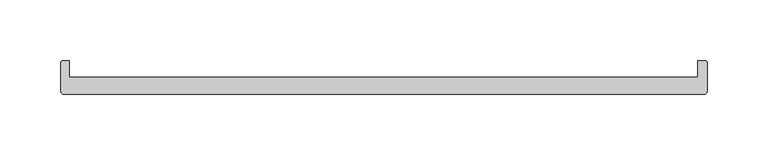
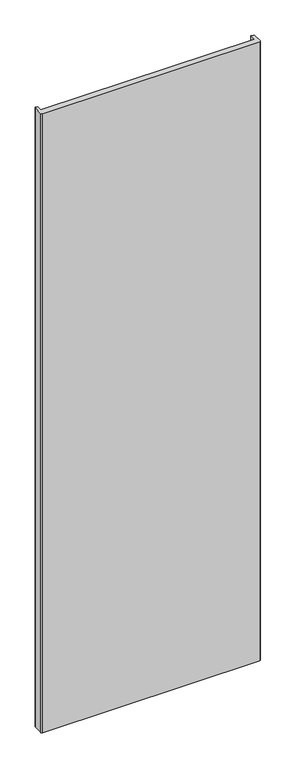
"""IFC4 building model written with IfcOpenShell, lengths in millimetres: plate geometry, Walls_Curtain-Walls_Danpal_NM : Walls_Curtain-Walls_Danpal_NM."""

import ifcopenshell
import ifcopenshell.guid

model = None  # the IFC model being written
_history = None  # IfcOwnerHistory: only IFC2X3 demands one
_inside = {}  # id of a spatial element -> (the spatial element, [elements in it])
_under = {}  # id of a project, library or spatial element -> (it, [spatial elements below it])
_declared = {}  # id of a project -> (the project, [libraries it declares])
_typed = {}  # id of a type object -> (the type object, [elements of that type])
_made_of = {}  # id of a material, layer set ... -> (it, [elements and type objects made of it])


def new_model(schema):
    """Start an empty IFC model of exactly this schema.

    Asked for "IFC4X3", IfcOpenShell would pick the latest addendum, in which some entities
    have other attributes; the version numbers below select the first issue.
    IFC2X3 requires an IfcOwnerHistory on every rooted entity: one is made here for all.
    """
    global model, _history
    if schema == "IFC4X3":
        model = ifcopenshell.file(schema_version=(4, 3, 0, 0))
    else:
        model = ifcopenshell.file(schema=schema)
    _inside.clear()
    _under.clear()
    _declared.clear()
    _typed.clear()
    _made_of.clear()
    _history = None
    if model.schema == "IFC2X3":
        org = make("IfcOrganization", Name="unknown")
        user = make(
            "IfcPersonAndOrganization",
            ThePerson=make("IfcPerson", FamilyName="unknown"),
            TheOrganization=org,
        )
        app = make(
            "IfcApplication",
            ApplicationDeveloper=org,
            Version="unknown",
            ApplicationFullName="unknown",
            ApplicationIdentifier="unknown",
        )
        _history = make(
            "IfcOwnerHistory",
            OwningUser=user,
            OwningApplication=app,
            ChangeAction="ADDED",
            CreationDate=0,
        )
    return model


def make(cls, **values):
    """One entity of the class cls with the attributes given. An attribute that is None is left unset."""
    return model.create_entity(
        cls, **{name: value for name, value in values.items() if value is not None}
    )


def rooted(cls, **values):
    """An entity with a GlobalId (a new one), such as an element, a storey or a relation."""
    return make(cls, GlobalId=ifcopenshell.guid.new(), OwnerHistory=_history, **values)


def si_unit(unit_type, name, prefix=None):
    """IfcSIUnit, for example si_unit("LENGTHUNIT", "METRE", prefix="MILLI")."""
    return make("IfcSIUnit", UnitType=unit_type, Prefix=prefix, Name=name)


def assignment(units):
    """IfcUnitAssignment: the units of a project."""
    return None if units is None else make("IfcUnitAssignment", Units=units)


def point(xyz):
    """IfcCartesianPoint."""
    return None if xyz is None else make("IfcCartesianPoint", Coordinates=xyz)


def direction(xyz):
    """IfcDirection."""
    return None if xyz is None else make("IfcDirection", DirectionRatios=xyz)


def frame(location, z_axis=None, x_axis=None):
    """IfcAxis2Placement3D, a coordinate frame: its origin and axes. An axis left out is left unset."""
    return make(
        "IfcAxis2Placement3D",
        Location=point(location),
        Axis=direction(z_axis),
        RefDirection=direction(x_axis),
    )


def frame_2d(location, x_axis=None):
    """IfcAxis2Placement2D, a coordinate frame in the plane: its origin and x axis."""
    return make(
        "IfcAxis2Placement2D", Location=point(location), RefDirection=direction(x_axis)
    )


def origin():
    """The frame at (0, 0, 0) with its axes left unset."""
    return frame((0.0, 0.0, 0.0))


def origin_with_axes():
    """The frame at (0, 0, 0) with the z axis (0, 0, 1) and the x axis (1, 0, 0) written out."""
    return frame((0.0, 0.0, 0.0), z_axis=(0.0, 0.0, 1.0), x_axis=(1.0, 0.0, 0.0))


def place(relative_to, where):
    """IfcLocalPlacement: puts the frame where relative to a parent placement (None: the world)."""
    return make(
        "IfcLocalPlacement", PlacementRelTo=relative_to, RelativePlacement=where
    )


def context(
    kind, dimensions, precision=None, world=None, true_north=None, identifier=None
):
    """IfcGeometricRepresentationContext, for example the 3D "Model" context."""
    return make(
        "IfcGeometricRepresentationContext",
        ContextIdentifier=identifier,
        ContextType=kind,
        CoordinateSpaceDimension=dimensions,
        Precision=precision,
        WorldCoordinateSystem=world,
        TrueNorth=true_north,
    )


def project(units=None, contexts=None):
    """IfcProject with its units and contexts."""
    return rooted(
        "IfcProject",
        Name="project",
        RepresentationContexts=contexts,
        UnitsInContext=assignment(units),
    )


def spatial(cls, under=None, at=None, **own):
    """A site, building, storey or space (cls), placed at a placement, below another one or the project."""
    s = rooted(cls, ObjectPlacement=at, **own)
    if under is not None:
        _under.setdefault(under.id(), (under, []))[1].append(s)
    return s


def polyline(points):
    """IfcPolyline through the points."""
    return make("IfcPolyline", Points=[point(p) for p in points])


def circle_curve(where, radius):
    """IfcCircle in the frame where."""
    return make("IfcCircle", Position=where, Radius=radius)


def trimmed(basis, trim1, trim2, sense, master):
    """IfcTrimmedCurve: the piece of a basis curve between two trims."""
    return make(
        "IfcTrimmedCurve",
        BasisCurve=basis,
        Trim1=trim1,
        Trim2=trim2,
        SenseAgreement=sense,
        MasterRepresentation=master,
    )


def segment(curve, same_sense, transition):
    """IfcCompositeCurveSegment."""
    return make(
        "IfcCompositeCurveSegment",
        Transition=transition,
        SameSense=same_sense,
        ParentCurve=curve,
    )


def composite_curve(segments, self_intersect=None):
    """IfcCompositeCurve: segments joined end to end."""
    return make("IfcCompositeCurve", Segments=segments, SelfIntersect=self_intersect)


def outline(outer, holes=None, kind="AREA"):
    """IfcArbitraryClosedProfileDef: a profile drawn as a closed curve; with holes, ...WithVoids."""
    if holes is None:
        return make("IfcArbitraryClosedProfileDef", ProfileType=kind, OuterCurve=outer)
    return make(
        "IfcArbitraryProfileDefWithVoids",
        ProfileType=kind,
        OuterCurve=outer,
        InnerCurves=holes,
    )


def extrude(swept, where, along, depth):
    """IfcExtrudedAreaSolid: the profile swept, set in the frame where, extruded along a direction by depth."""
    return make(
        "IfcExtrudedAreaSolid",
        SweptArea=swept,
        Position=where,
        ExtrudedDirection=direction(along),
        Depth=depth,
    )


def shape(context_of_items, identifier, shape_type, items):
    """IfcShapeRepresentation: the items that make up one representation, for example the "Body"."""
    return make(
        "IfcShapeRepresentation",
        ContextOfItems=context_of_items,
        RepresentationIdentifier=identifier,
        RepresentationType=shape_type,
        Items=items,
    )


def source(mapping_origin, context_of_items, identifier, shape_type, items):
    """IfcRepresentationMap: a shape defined once, which mapped items show again and again."""
    return make(
        "IfcRepresentationMap",
        MappingOrigin=mapping_origin,
        MappedRepresentation=shape(context_of_items, identifier, shape_type, items),
    )


def transform(
    local_origin,
    x_axis=None,
    y_axis=None,
    z_axis=None,
    scale=None,
    scale2=None,
    scale3=None,
    uniform=True,
):
    """IfcCartesianTransformationOperator3D, or its non-uniform kind. x_axis, y_axis, z_axis: its Axis1, 2, 3."""
    if uniform:
        return make(
            "IfcCartesianTransformationOperator3D",
            Axis1=direction(x_axis),
            Axis2=direction(y_axis),
            LocalOrigin=point(local_origin),
            Scale=scale,
            Axis3=direction(z_axis),
        )
    return make(
        "IfcCartesianTransformationOperator3DnonUniform",
        Axis1=direction(x_axis),
        Axis2=direction(y_axis),
        LocalOrigin=point(local_origin),
        Scale=scale,
        Axis3=direction(z_axis),
        Scale2=scale2,
        Scale3=scale3,
    )


def mapped(mapping_source, mapping_target):
    """IfcMappedItem: shows the shape of a source again, moved by a transform."""
    return make(
        "IfcMappedItem", MappingSource=mapping_source, MappingTarget=mapping_target
    )


def made_of(thing, what):
    """Note that an element or type object is made of a material, layer set ...; save() writes the relation."""
    if what is not None:
        _made_of.setdefault(what.id(), (what, []))[1].append(thing)
    return thing


def element(
    cls,
    number,
    at=None,
    inside=None,
    cuts=None,
    type_object=None,
    material=None,
    context=None,
    identifier="Body",
    shape_type=None,
    held_by="IfcProductDefinitionShape",
    body=None,
    shapes=None,
    **own,
):
    """One element of the class cls, such as IfcWall. Its Tag is "e" and its number.

    at: its placement. inside: the storey or other place that contains it. cuts: it is an
    opening in that element (IfcRelVoidsElement). A single representation is given by context,
    identifier, shape_type and body (its items); several are given by shapes. held_by: the class
    of the entity that holds the representations. save() writes the other relations.
    """
    e = rooted(cls, Tag="e%d" % number, ObjectPlacement=at, **own)
    if body is not None:
        shapes = [shape(context, identifier, shape_type, body)]
    if shapes is not None:
        e.Representation = make(held_by, Representations=shapes)
    if inside is not None:
        _inside.setdefault(inside.id(), (inside, []))[1].append(e)
    if cuts is not None:
        rooted(
            "IfcRelVoidsElement", RelatingBuildingElement=cuts, RelatedOpeningElement=e
        )
    if type_object is not None:
        _typed.setdefault(type_object.id(), (type_object, []))[1].append(e)
    return made_of(e, material)


def aggregate(whole, parts):
    """IfcRelAggregates: a whole, such as a stair, and the parts it consists of."""
    return rooted("IfcRelAggregates", RelatingObject=whole, RelatedObjects=parts)


def save(model, path):
    """Write the relations noted so far, then the file.

    IfcRelAggregates (storeys below a building ...), IfcRelContainedInSpatialStructure (elements
    in a storey), IfcRelDefinesByType, IfcRelAssociatesMaterial and IfcRelDeclares: one each for
    every whole, place, type object, material and project.
    """
    for whole, parts in _under.values():
        aggregate(whole, parts)
    for where, things in _inside.values():
        rooted(
            "IfcRelContainedInSpatialStructure",
            RelatedElements=things,
            RelatingStructure=where,
        )
    for kind, things in _typed.values():
        rooted("IfcRelDefinesByType", RelatedObjects=things, RelatingType=kind)
    for what, things in _made_of.values():
        rooted("IfcRelAssociatesMaterial", RelatedObjects=things, RelatingMaterial=what)
    for by, libraries in _declared.values():
        rooted("IfcRelDeclares", RelatingContext=by, RelatedDefinitions=libraries)
    model.write(path)


def plate_520ca2cf(model_context):
    return source(origin(), model_context, "Body", "SweptSolid", [
        extrude(outline(composite_curve([segment(polyline([(261.9253712, 0.0), (-262.9491187, 0.0)]), True, "CONTINUOUS"), segment(trimmed(circle_curve(frame_2d((-262.9491187, 2.6508813)), 2.6508813), [point((-262.9491187, 0.0))], [point((-265.6, 2.6508813))], False, "CARTESIAN"), True, "CONTINUOUS"), segment(polyline([(-265.6, 2.6508813), (-265.6, 26.0669991)]), True, "CONTINUOUS"), segment(trimmed(circle_curve(frame_2d((-264.2745594, 26.0669991)), 1.3254406), [point((-265.6, 26.0669991))], [point((-264.2745594, 27.3924397))], False, "CARTESIAN"), True, "CONTINUOUS"), segment(polyline([(-264.2745594, 27.3924397), (-258.6, 27.3924397), (-258.6, 14.1225989), (256.8568956, 14.1380334), (256.8568956, 27.3924397), (263.2508119, 27.3924397)]), True, "CONTINUOUS"), segment(trimmed(circle_curve(frame_2d((263.2508119, 26.0669991)), 1.3254406), [point((263.2508119, 27.3924397))], [point((264.5762525, 26.0669991))], False, "CARTESIAN"), True, "CONTINUOUS"), segment(polyline([(264.5762525, 26.0669991), (264.5762525, 2.6508813)]), True, "CONTINUOUS"), segment(trimmed(circle_curve(frame_2d((261.9253712, 2.6508813)), 2.6508813), [point((264.5762525, 2.6508813))], [point((261.9253712, 0.0))], False, "CARTESIAN"), True, "CONTINUOUS")], self_intersect=False)), origin_with_axes(), (0.0, 0.0, 1.0), 1579.047587),
    ])


if __name__ == "__main__":
    model = new_model("IFC4")
    model_context = context("Model", 3, world=origin())
    ifc_project = project(units=[si_unit("LENGTHUNIT", "METRE", prefix="MILLI")], contexts=[model_context])
    site = spatial("IfcSite", under=ifc_project)
    building = spatial("IfcBuilding", under=site)
    placement = place(None, origin())
    plate_shape = plate_520ca2cf(model_context)
    element("IfcPlate", 1, ObjectType="Walls_Curtain-Walls_Danpal_NM : Walls_Curtain-Walls_Danpal_NM", at=placement, inside=building, context=model_context, shape_type="MappedRepresentation", body=[
        mapped(plate_shape, transform((0.0, 0.0, 0.0), x_axis=(1.0, 0.0, 0.0), y_axis=(0.0, 1.0, 0.0), z_axis=(0.0, 0.0, 1.0))),
    ])
    save(model, "model.ifc")
